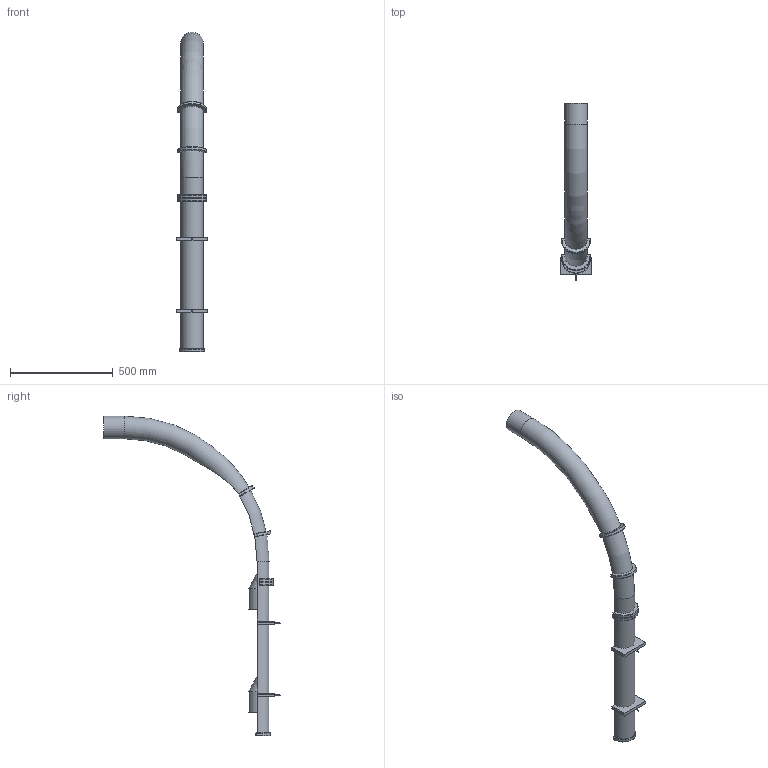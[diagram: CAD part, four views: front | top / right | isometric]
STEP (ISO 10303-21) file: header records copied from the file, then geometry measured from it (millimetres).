
FILE_DESCRIPTION(/* description */ (''),/* implementation_level */ '2;1');
FILE_NAME(/* name */ 'Q:\I_Simples\Library\Inventor\Abrollbuegel\DN110\10029\029_6.stp',/* time_stamp */ '2024-04-17T15:27:41+02:00',/* author */ ('Ru'),/* organization */ (''),/* preprocessor_version */ 'ST-DEVELOPER v18.1',/* originating_system */ 'Autodesk Inventor 2022',/* authorisation */ '');
FILE_SCHEMA (('AUTOMOTIVE_DESIGN { 1 0 10303 214 3 1 1 }'));
Length unit declared in the file: millimetre
Products named in the file (4): Assembly1; 0029_Bend; WUERTH 011539 38 self-tapping screw  DIN 7981 ST3.9x38-C-H VORDEF A2K
 ST; Tüte110
Assembly tree (5 placements, depth 2):
  Assembly1
    0029_Bend
    WUERTH 011539 38 self-tapping screw  DIN 7981 ST3.9x38-C-H VORDEF A2K
 ST  x2
    Tüte110  x2
Bounding box: 150 x 858 x 1553.5 mm (x, y, z)
Volume: 3326510 mm3; surface area: 1126329.9 mm2
Topology: 9 solids, 9 shells, 258 faces, 584 edges, 346 vertices
Faces by surface type: cylinder 101, plane 89, sphere 30, bspline 20, torus 16, cone 2
Full cylindrical faces by diameter (mm): 3 x2, 3.9 x2, 7.5 x2, 105.4 x1, 110 x1
Entity records: 6997 total; most frequent: CARTESIAN_POINT 1986, DIRECTION 1067, ORIENTED_EDGE 958, EDGE_CURVE 479, AXIS2_PLACEMENT_3D 416, VERTEX_POINT 279, LINE 235, VECTOR 235
